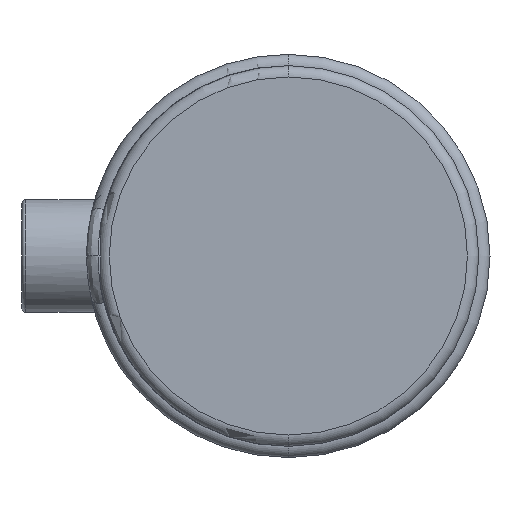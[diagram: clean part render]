
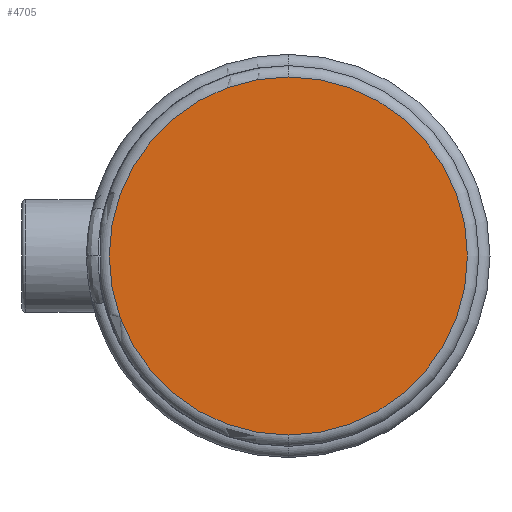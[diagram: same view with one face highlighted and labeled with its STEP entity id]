
A CAD part, left-side view. The second image highlights one B-rep face of the part: STEP entity #4705.
In plain terms, the highlighted planar face has unit normal (-1, 0, 0).
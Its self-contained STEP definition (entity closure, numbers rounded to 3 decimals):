
#125 = AXIS2_PLACEMENT_3D ( 'NONE', #4122, #5525, #2733 ) ;
#263 = CIRCLE ( 'NONE', #2579, 47.6 ) ;
#1159 = CARTESIAN_POINT ( 'NONE',  ( 0., 0., 0. ) ) ;
#1160 = DIRECTION ( 'NONE',  ( -1., 0., 0. ) ) ;
#1636 = DIRECTION ( 'NONE',  ( 0., 0., 1. ) ) ;
#2516 = EDGE_CURVE ( 'NONE', #2932, #5184, #263, .T. ) ;
#2579 = AXIS2_PLACEMENT_3D ( 'NONE', #1159, #4465, #1636 ) ;
#2733 = DIRECTION ( 'NONE',  ( 0., 0., 1. ) ) ;
#2860 = ORIENTED_EDGE ( 'NONE', *, *, #4293, .T. ) ;
#2932 = VERTEX_POINT ( 'NONE', #3484 ) ;
#3484 = CARTESIAN_POINT ( 'NONE',  ( 0., 0., 47.6 ) ) ;
#3652 = PLANE ( 'NONE',  #125 ) ;
#3987 = CARTESIAN_POINT ( 'NONE',  ( 0., 0., 0. ) ) ;
#4122 = CARTESIAN_POINT ( 'NONE',  ( 0., 0., 0. ) ) ;
#4293 = EDGE_CURVE ( 'NONE', #5184, #2932, #5013, .T. ) ;
#4465 = DIRECTION ( 'NONE',  ( -1., 0., 0. ) ) ;
#4467 = DIRECTION ( 'NONE',  ( 0., 0., 1. ) ) ;
#4705 = ADVANCED_FACE ( 'NONE', ( #5380 ), #3652, .T. ) ;
#5013 = CIRCLE ( 'NONE', #5672, 47.6 ) ;
#5184 = VERTEX_POINT ( 'NONE', #5918 ) ;
#5380 = FACE_OUTER_BOUND ( 'NONE', #5476, .T. ) ;
#5476 = EDGE_LOOP ( 'NONE', ( #5556, #2860 ) ) ;
#5525 = DIRECTION ( 'NONE',  ( -1., 0., 0. ) ) ;
#5556 = ORIENTED_EDGE ( 'NONE', *, *, #2516, .T. ) ;
#5672 = AXIS2_PLACEMENT_3D ( 'NONE', #3987, #1160, #4467 ) ;
#5918 = CARTESIAN_POINT ( 'NONE',  ( 0., 0., -47.6 ) ) ;
